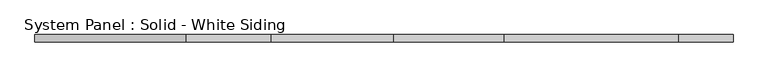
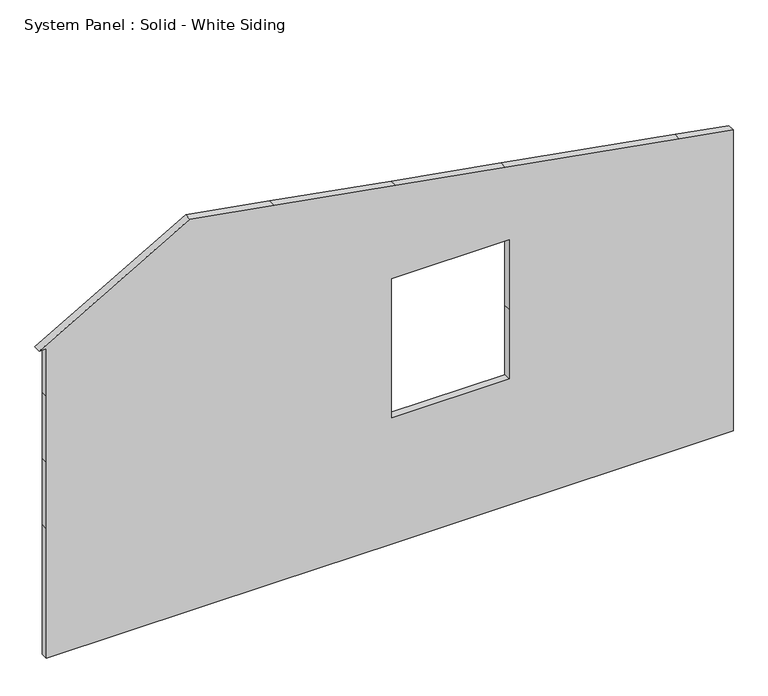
"""IFC4 building model written with IfcOpenShell, lengths in millimetres: plate geometry, System Panel : Solid - White Siding."""

from ifc_helpers import new_model, si_unit, frame, origin, place, context, project, spatial, polyline, outline, extrude, source, transform, mapped, element, save


def system_panel_solid_white_siding_d3e9cc3a(model_context):
    return source(origin(), model_context, "Body", "SweptSolid", [
        extrude(outline(polyline([(0.0, -2965.45), (0.0, -977.9), (0.0, 82.55), (0.0, 1041.4), (0.0, 2559.05), (0.0, 3028.95), (1197.5024417, 3028.95), (1807.1024417, 3028.95), (2416.7024417, 3028.95), (2779.4775718, 3028.95), (2862.33362, 2559.05), (3129.9362623, 1041.4), (3299.0073878, 82.55), (3485.9933344, -977.9), (3615.7975583, -1714.0563349), (2856.6433468, -3028.95), (2856.6433468, -2965.45), (2416.7024417, -2965.45), (1807.1024417, -2965.45), (1197.5024417, -2965.45), (0.0, -2965.45)]), holes=[polyline([(1165.7524417, 1073.15), (1165.7524417, 50.8), (1807.1024417, 50.8), (2448.4524417, 50.8), (2448.4524417, 1073.15), (1807.1024417, 1073.15), (1165.7524417, 1073.15)])]), frame((0.0, -44.45, 0.0), z_axis=(0.0, 1.0, 0.0), x_axis=(0.0, 0.0, 1.0)), (0.0, 0.0, 1.0), 63.5),
    ])


if __name__ == "__main__":
    model = new_model("IFC4")
    model_context = context("Model", 3, world=origin())
    ifc_project = project(units=[si_unit("LENGTHUNIT", "METRE", prefix="MILLI")], contexts=[model_context])
    site = spatial("IfcSite", under=ifc_project)
    building = spatial("IfcBuilding", under=site)
    placement = place(None, origin())
    system_panel_solid_white_siding_shape = system_panel_solid_white_siding_d3e9cc3a(model_context)
    element("IfcPlate", 1, ObjectType="System Panel : Solid - White Siding", at=placement, inside=building, context=model_context, shape_type="MappedRepresentation", body=[
        mapped(system_panel_solid_white_siding_shape, transform((0.0, 0.0, 0.0), x_axis=(1.0, 0.0, 0.0), y_axis=(0.0, 1.0, 0.0), z_axis=(0.0, 0.0, 1.0))),
    ])
    save(model, "model.ifc")
